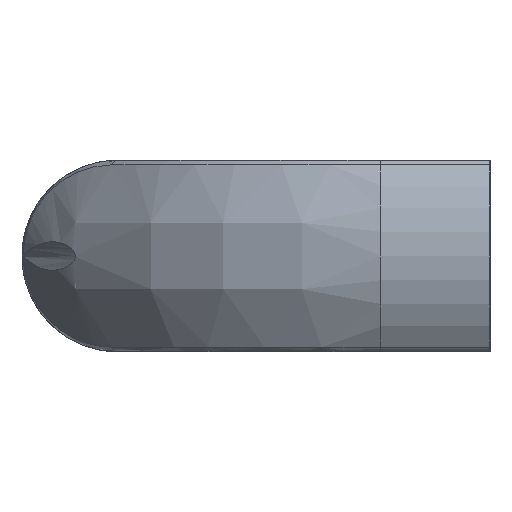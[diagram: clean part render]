
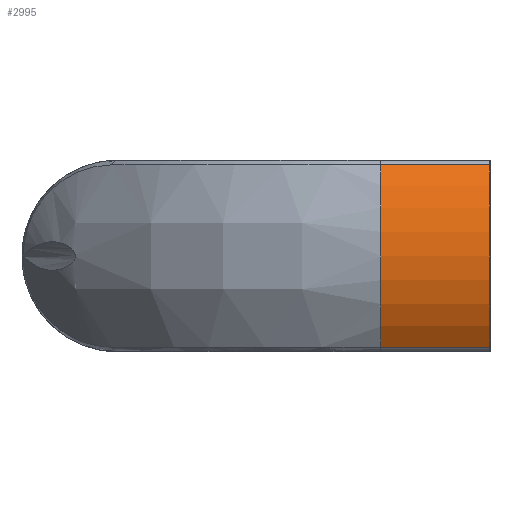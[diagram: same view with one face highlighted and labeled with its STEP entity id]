
A CAD part, left-side view. The second image highlights one B-rep face of the part: STEP entity #2995.
In plain terms, the highlighted cylindrical face has radius 28.521 mm (diameter 57.042 mm), a partial arc.
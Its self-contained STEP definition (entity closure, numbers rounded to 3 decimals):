
#144 = CARTESIAN_POINT ( 'NONE',  ( -31.122, 0., 16.669 ) ) ;
#330 = EDGE_CURVE ( 'NONE', #3585, #5470, #995, .T. ) ;
#350 = CARTESIAN_POINT ( 'NONE',  ( -7.979, 0., 0. ) ) ;
#434 = AXIS2_PLACEMENT_3D ( 'NONE', #2438, #5643, #2903 ) ;
#683 = EDGE_CURVE ( 'NONE', #3283, #5470, #3360, .T. ) ;
#748 = VERTEX_POINT ( 'NONE', #1547 ) ;
#808 = DIRECTION ( 'NONE',  ( 0., 0., 1. ) ) ;
#995 = LINE ( 'NONE', #5568, #5719 ) ;
#1266 = VECTOR ( 'NONE', #2512, 1000. ) ;
#1292 = AXIS2_PLACEMENT_3D ( 'NONE', #1745, #1736, #1722 ) ;
#1418 = LINE ( 'NONE', #2046, #1266 ) ;
#1540 = CARTESIAN_POINT ( 'NONE',  ( -31.122, 20., 16.669 ) ) ;
#1547 = CARTESIAN_POINT ( 'NONE',  ( -31.122, 0., -16.669 ) ) ;
#1722 = DIRECTION ( 'NONE',  ( 0., 0., 1. ) ) ;
#1736 = DIRECTION ( 'NONE',  ( 0., 1., 0. ) ) ;
#1745 = CARTESIAN_POINT ( 'NONE',  ( -7.979, 20., 0. ) ) ;
#2021 = CIRCLE ( 'NONE', #4121, 28.521 ) ;
#2046 = CARTESIAN_POINT ( 'NONE',  ( -31.122, 20., -16.669 ) ) ;
#2438 = CARTESIAN_POINT ( 'NONE',  ( -7.979, 20., 0. ) ) ;
#2512 = DIRECTION ( 'NONE',  ( 0., -1., 0. ) ) ;
#2828 = CARTESIAN_POINT ( 'NONE',  ( -31.122, 20., -16.669 ) ) ;
#2903 = DIRECTION ( 'NONE',  ( 0., 0., -1. ) ) ;
#2995 = ADVANCED_FACE ( 'NONE', ( #5181 ), #4016, .T. ) ;
#3283 = VERTEX_POINT ( 'NONE', #2828 ) ;
#3345 = EDGE_CURVE ( 'NONE', #3283, #748, #1418, .T. ) ;
#3360 = CIRCLE ( 'NONE', #1292, 28.521 ) ;
#3474 = ORIENTED_EDGE ( 'NONE', *, *, #330, .T. ) ;
#3571 = DIRECTION ( 'NONE',  ( 0., 1., 0. ) ) ;
#3585 = VERTEX_POINT ( 'NONE', #144 ) ;
#3617 = ORIENTED_EDGE ( 'NONE', *, *, #5690, .T. ) ;
#3777 = ORIENTED_EDGE ( 'NONE', *, *, #3345, .T. ) ;
#4016 = CYLINDRICAL_SURFACE ( 'NONE', #434, 28.521 ) ;
#4121 = AXIS2_PLACEMENT_3D ( 'NONE', #350, #3571, #808 ) ;
#4213 = ORIENTED_EDGE ( 'NONE', *, *, #683, .F. ) ;
#5181 = FACE_OUTER_BOUND ( 'NONE', #5570, .T. ) ;
#5470 = VERTEX_POINT ( 'NONE', #1540 ) ;
#5531 = DIRECTION ( 'NONE',  ( 0., 1., 0. ) ) ;
#5568 = CARTESIAN_POINT ( 'NONE',  ( -31.122, 20., 16.669 ) ) ;
#5570 = EDGE_LOOP ( 'NONE', ( #4213, #3777, #3617, #3474 ) ) ;
#5643 = DIRECTION ( 'NONE',  ( 0., -1., 0. ) ) ;
#5690 = EDGE_CURVE ( 'NONE', #748, #3585, #2021, .T. ) ;
#5719 = VECTOR ( 'NONE', #5531, 1000. ) ;
